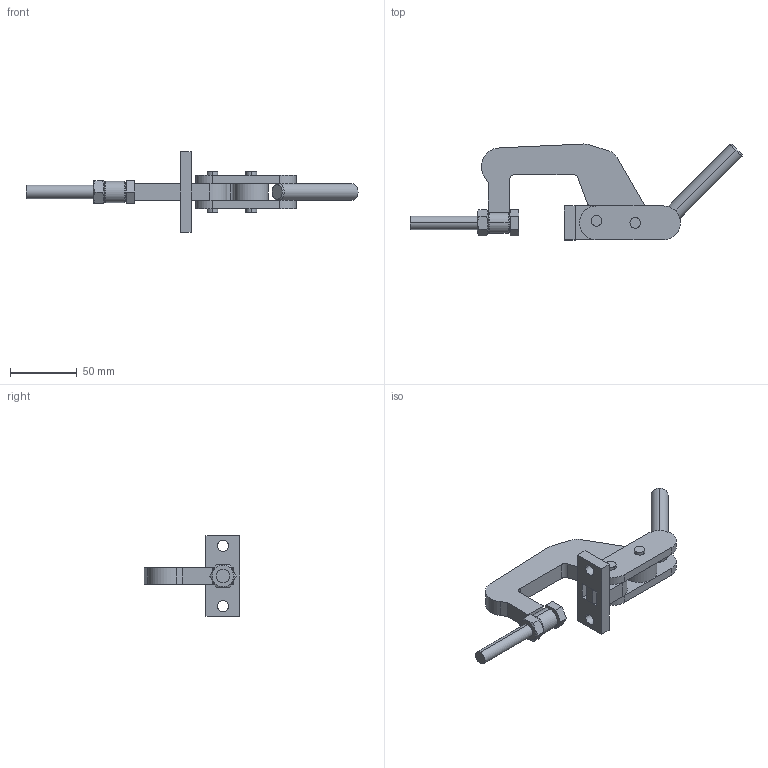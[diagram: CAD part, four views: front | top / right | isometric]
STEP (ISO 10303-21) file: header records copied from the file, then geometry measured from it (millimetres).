
FILE_DESCRIPTION (( 'STEP AP203' ), '1' );
FILE_NAME ('KF-035 34.STEP', '2012-10-29T19:01:22', ( 'Ricardo' ), ( '' ), 'SwSTEP 2.0', 'SolidWorks 2012', '' );
FILE_SCHEMA (( 'CONFIG_CONTROL_DESIGN' ));
Length unit declared in the file: millimetre
Products named in the file (10): 02.10023; 15.10049; 15.10048; KF-035 34; 11.50003; 05.20024; 03.10021; 06.50044; 01.20013; 12.50004
Assembly tree (11 placements, depth 2):
  KF-035 34
    02.10023
    15.10049
    15.10048  x2
    03.10021
    01.20013
    05.20024
    12.50004
    11.50003
    06.50044  x2
Bounding box: 248.06 x 71.68 x 60 mm (x, y, z)
Volume: 114439.9 mm3; surface area: 41355.7 mm2
Topology: 11 solids, 11 shells, 130 faces, 309 edges, 202 vertices
Faces by surface type: plane 67, cylinder 47, cone 16
Entity records: 4618 total; most frequent: CARTESIAN_POINT 709, DIRECTION 618, ORIENTED_EDGE 552, EDGE_CURVE 276, AXIS2_PLACEMENT_3D 225, VERTEX_POINT 180, VECTOR 168, LINE 168
